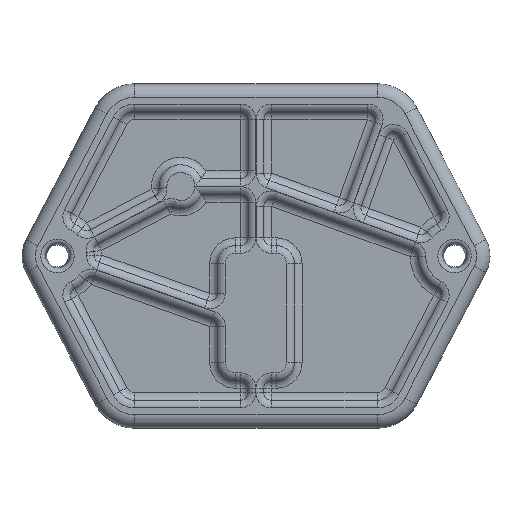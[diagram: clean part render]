
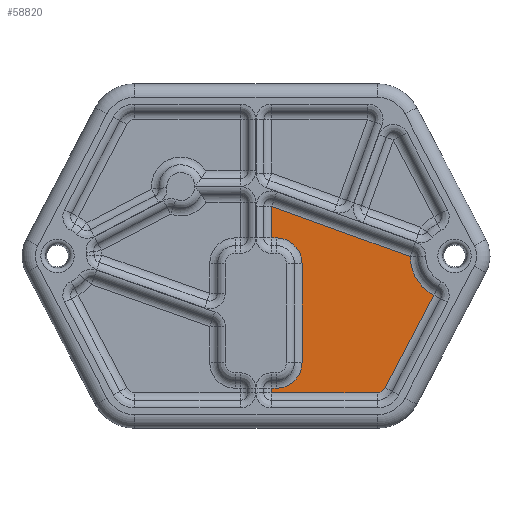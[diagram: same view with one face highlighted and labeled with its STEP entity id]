
A CAD part, front view. The second image highlights one B-rep face of the part: STEP entity #58820.
In plain terms, the highlighted planar face has unit normal (0, -1, 0).
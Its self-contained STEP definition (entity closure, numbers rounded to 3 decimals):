
#80 = CARTESIAN_POINT ( 'NONE',  ( 19.567, -7.028, -20.459 ) ) ;
#522 = CARTESIAN_POINT ( 'NONE',  ( 0.967, -7.028, -14.796 ) ) ;
#738 = DIRECTION ( 'NONE',  ( 0., 0., 1. ) ) ;
#1699 = VERTEX_POINT ( 'NONE', #13539 ) ;
#2157 = DIRECTION ( 'NONE',  ( 0., 0., 1. ) ) ;
#2229 = EDGE_CURVE ( 'NONE', #49002, #72883, #56058, .T. ) ;
#2244 = DIRECTION ( 'NONE',  ( 1., 0., 0. ) ) ;
#2847 = VERTEX_POINT ( 'NONE', #522 ) ;
#3079 = DIRECTION ( 'NONE',  ( 0., 1., 0. ) ) ;
#4147 = VECTOR ( 'NONE', #61959, 1000. ) ;
#5556 = VERTEX_POINT ( 'NONE', #68604 ) ;
#6118 = CARTESIAN_POINT ( 'NONE',  ( 25.162, -7.028, 8.905 ) ) ;
#6861 = ORIENTED_EDGE ( 'NONE', *, *, #31913, .T. ) ;
#7807 = VERTEX_POINT ( 'NONE', #80 ) ;
#7933 = CIRCLE ( 'NONE', #47665, 2. ) ;
#9601 = CARTESIAN_POINT ( 'NONE',  ( -5.872, -7.028, 13.094 ) ) ;
#9737 = ORIENTED_EDGE ( 'NONE', *, *, #11960, .T. ) ;
#10049 = CARTESIAN_POINT ( 'NONE',  ( -5.874, -7.028, 9.027 ) ) ;
#10664 = CIRCLE ( 'NONE', #52842, 9.937 ) ;
#11960 = EDGE_CURVE ( 'NONE', #23896, #38140, #56177, .T. ) ;
#13243 = CARTESIAN_POINT ( 'NONE',  ( -4.823, -7.028, 13.094 ) ) ;
#13539 = CARTESIAN_POINT ( 'NONE',  ( -4.823, -7.028, 13.094 ) ) ;
#13618 = DIRECTION ( 'NONE',  ( 1., 0., 0. ) ) ;
#14237 = ORIENTED_EDGE ( 'NONE', *, *, #64206, .T. ) ;
#14751 = ORIENTED_EDGE ( 'NONE', *, *, #39496, .T. ) ;
#16303 = CARTESIAN_POINT ( 'NONE',  ( -5.39, -7.028, 19.969 ) ) ;
#16949 = DIRECTION ( 'NONE',  ( -1., 0., 0. ) ) ;
#18672 = ORIENTED_EDGE ( 'NONE', *, *, #38706, .T. ) ;
#19218 = DIRECTION ( 'NONE',  ( 0., 0., 1. ) ) ;
#21077 = ORIENTED_EDGE ( 'NONE', *, *, #43651, .T. ) ;
#22865 = CIRCLE ( 'NONE', #67379, 5.79 ) ;
#22963 = EDGE_CURVE ( 'NONE', #49414, #31887, #10664, .T. ) ;
#23063 = VERTEX_POINT ( 'NONE', #68664 ) ;
#23896 = VERTEX_POINT ( 'NONE', #40943 ) ;
#24011 = CARTESIAN_POINT ( 'NONE',  ( -5.896, -7.028, -20.586 ) ) ;
#24519 = CARTESIAN_POINT ( 'NONE',  ( -9.351, -7.028, 9.03 ) ) ;
#25658 = CARTESIAN_POINT ( 'NONE',  ( 0.967, -7.028, -14.796 ) ) ;
#25770 = LINE ( 'NONE', #47660, #39278 ) ;
#26075 = DIRECTION ( 'NONE',  ( 0., 0., 1. ) ) ;
#28913 = ORIENTED_EDGE ( 'NONE', *, *, #63631, .T. ) ;
#29102 = ORIENTED_EDGE ( 'NONE', *, *, #29214, .T. ) ;
#29214 = EDGE_CURVE ( 'NONE', #50181, #2847, #54330, .T. ) ;
#29404 = CARTESIAN_POINT ( 'NONE',  ( -4.823, -7.028, -14.796 ) ) ;
#29806 = VECTOR ( 'NONE', #13618, 1000. ) ;
#30805 = DIRECTION ( 'NONE',  ( 0., 1., 0. ) ) ;
#31887 = VERTEX_POINT ( 'NONE', #6118 ) ;
#31913 = EDGE_CURVE ( 'NONE', #31887, #49002, #67984, .T. ) ;
#33537 = CARTESIAN_POINT ( 'NONE',  ( -9.351, -7.028, -20.586 ) ) ;
#34544 = DIRECTION ( 'NONE',  ( -0.001, 0., -1. ) ) ;
#36792 = CARTESIAN_POINT ( 'NONE',  ( 17.795, -7.028, -19.53 ) ) ;
#38140 = VERTEX_POINT ( 'NONE', #24011 ) ;
#38706 = EDGE_CURVE ( 'NONE', #38140, #5556, #25770, .T. ) ;
#39278 = VECTOR ( 'NONE', #64628, 1000. ) ;
#39496 = EDGE_CURVE ( 'NONE', #2847, #23896, #62284, .T. ) ;
#39572 = CARTESIAN_POINT ( 'NONE',  ( 0.967, -7.028, 7.304 ) ) ;
#40923 = DIRECTION ( 'NONE',  ( 0.464, 0., 0.886 ) ) ;
#40943 = CARTESIAN_POINT ( 'NONE',  ( -4.823, -7.028, -20.586 ) ) ;
#41121 = DIRECTION ( 'NONE',  ( 0., 1., 0. ) ) ;
#41699 = EDGE_CURVE ( 'NONE', #72883, #1699, #48331, .T. ) ;
#41812 = ORIENTED_EDGE ( 'NONE', *, *, #46751, .T. ) ;
#42590 = LINE ( 'NONE', #65965, #66723 ) ;
#43651 = EDGE_CURVE ( 'NONE', #1699, #50181, #22865, .T. ) ;
#44903 = VECTOR ( 'NONE', #40923, 1000. ) ;
#46751 = EDGE_CURVE ( 'NONE', #23063, #7807, #7933, .T. ) ;
#47660 = CARTESIAN_POINT ( 'NONE',  ( -5.874, -7.028, 9.027 ) ) ;
#47665 = AXIS2_PLACEMENT_3D ( 'NONE', #36792, #60562, #59812 ) ;
#47893 = FACE_OUTER_BOUND ( 'NONE', #50739, .T. ) ;
#48331 = LINE ( 'NONE', #13243, #29806 ) ;
#49002 = VERTEX_POINT ( 'NONE', #51239 ) ;
#49414 = VERTEX_POINT ( 'NONE', #74057 ) ;
#49938 = ORIENTED_EDGE ( 'NONE', *, *, #22963, .T. ) ;
#50181 = VERTEX_POINT ( 'NONE', #39572 ) ;
#50739 = EDGE_LOOP ( 'NONE', ( #49938, #6861, #67834, #66509, #21077, #29102, #14751, #9737, #18672, #28913, #41812, #14237 ) ) ;
#51239 = CARTESIAN_POINT ( 'NONE',  ( -5.866, -7.028, 20.142 ) ) ;
#52411 = DIRECTION ( 'NONE',  ( 0., 1., 0. ) ) ;
#52842 = AXIS2_PLACEMENT_3D ( 'NONE', #71726, #3079, #26075 ) ;
#52977 = LINE ( 'NONE', #63197, #44903 ) ;
#54330 = LINE ( 'NONE', #25658, #55784 ) ;
#55069 = AXIS2_PLACEMENT_3D ( 'NONE', #29404, #52411, #738 ) ;
#55784 = VECTOR ( 'NONE', #71676, 1000. ) ;
#56058 = LINE ( 'NONE', #10049, #67236 ) ;
#56177 = LINE ( 'NONE', #33537, #57691 ) ;
#57691 = VECTOR ( 'NONE', #16949, 1000. ) ;
#58820 = ADVANCED_FACE ( 'NONE', ( #47893 ), #70902, .F. ) ;
#59494 = CARTESIAN_POINT ( 'NONE',  ( -4.823, -7.028, 7.304 ) ) ;
#59812 = DIRECTION ( 'NONE',  ( 0., 0., 1. ) ) ;
#60562 = DIRECTION ( 'NONE',  ( 0., -1., 0. ) ) ;
#61959 = DIRECTION ( 'NONE',  ( -0.94, 0., 0.34 ) ) ;
#62284 = CIRCLE ( 'NONE', #55069, 5.79 ) ;
#62529 = AXIS2_PLACEMENT_3D ( 'NONE', #24519, #41121, #19218 ) ;
#63197 = CARTESIAN_POINT ( 'NONE',  ( 30.429, -7.028, 0.258 ) ) ;
#63631 = EDGE_CURVE ( 'NONE', #5556, #23063, #42590, .T. ) ;
#64206 = EDGE_CURVE ( 'NONE', #7807, #49414, #52977, .T. ) ;
#64628 = DIRECTION ( 'NONE',  ( -0.001, 0., -1. ) ) ;
#65965 = CARTESIAN_POINT ( 'NONE',  ( 17.795, -7.028, -21.53 ) ) ;
#66509 = ORIENTED_EDGE ( 'NONE', *, *, #41699, .T. ) ;
#66723 = VECTOR ( 'NONE', #2244, 1000. ) ;
#67236 = VECTOR ( 'NONE', #34544, 1000. ) ;
#67379 = AXIS2_PLACEMENT_3D ( 'NONE', #59494, #30805, #2157 ) ;
#67834 = ORIENTED_EDGE ( 'NONE', *, *, #2229, .T. ) ;
#67984 = LINE ( 'NONE', #16303, #4147 ) ;
#68604 = CARTESIAN_POINT ( 'NONE',  ( -5.897, -7.028, -21.53 ) ) ;
#68664 = CARTESIAN_POINT ( 'NONE',  ( 17.795, -7.028, -21.53 ) ) ;
#70902 = PLANE ( 'NONE',  #62529 ) ;
#71676 = DIRECTION ( 'NONE',  ( 0., 0., -1. ) ) ;
#71726 = CARTESIAN_POINT ( 'NONE',  ( 35.099, -7.028, 9.03 ) ) ;
#72883 = VERTEX_POINT ( 'NONE', #9601 ) ;
#74057 = CARTESIAN_POINT ( 'NONE',  ( 30.429, -7.028, 0.258 ) ) ;
